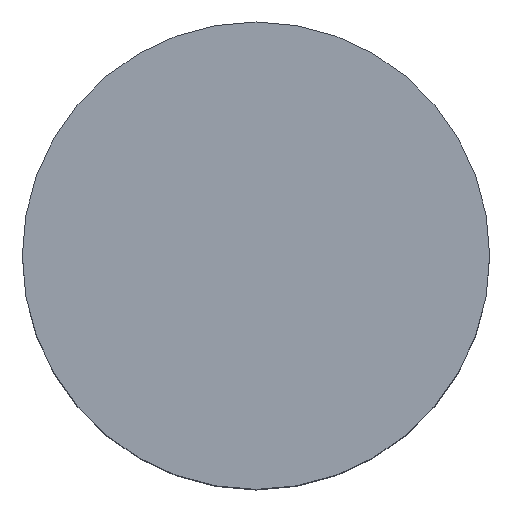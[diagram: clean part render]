
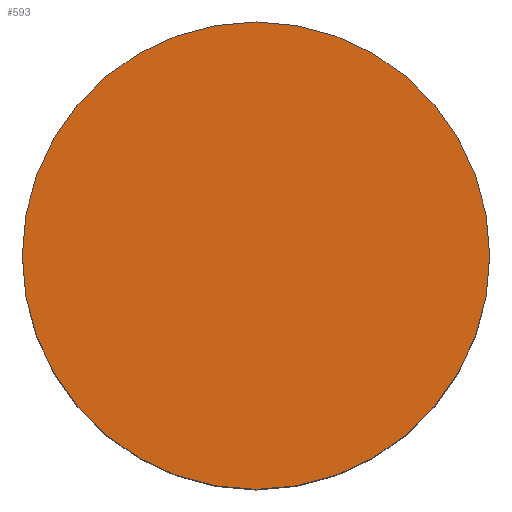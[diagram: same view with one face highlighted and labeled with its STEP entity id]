
A CAD part, top view. The second image highlights one B-rep face of the part: STEP entity #593.
In plain terms, the highlighted planar face has unit normal (0, 0, 1).
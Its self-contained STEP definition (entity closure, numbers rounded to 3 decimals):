
#56 = CIRCLE ( 'NONE', #855, 25. ) ;
#262 = CARTESIAN_POINT ( 'NONE',  ( 0., 0., 10. ) ) ;
#322 = DIRECTION ( 'NONE',  ( -1., 0., 0. ) ) ;
#403 = AXIS2_PLACEMENT_3D ( 'NONE', #262, #1028, #1036 ) ;
#420 = CARTESIAN_POINT ( 'NONE',  ( 0., 0., 10. ) ) ;
#427 = DIRECTION ( 'NONE',  ( 0., 0., 1. ) ) ;
#433 = DIRECTION ( 'NONE',  ( 1., 0., 0. ) ) ;
#512 = EDGE_CURVE ( 'NONE', #520, #820, #56, .T. ) ;
#520 = VERTEX_POINT ( 'NONE', #899 ) ;
#540 = EDGE_LOOP ( 'NONE', ( #743, #746 ) ) ;
#593 = ADVANCED_FACE ( 'NONE', ( #810 ), #608, .F. ) ;
#608 = PLANE ( 'NONE',  #661 ) ;
#640 = CIRCLE ( 'NONE', #403, 25. ) ;
#661 = AXIS2_PLACEMENT_3D ( 'NONE', #834, #802, #322 ) ;
#701 = CARTESIAN_POINT ( 'NONE',  ( 25., 0., 10. ) ) ;
#743 = ORIENTED_EDGE ( 'NONE', *, *, #744, .T. ) ;
#744 = EDGE_CURVE ( 'NONE', #820, #520, #640, .T. ) ;
#746 = ORIENTED_EDGE ( 'NONE', *, *, #512, .T. ) ;
#802 = DIRECTION ( 'NONE',  ( 0., 0., -1. ) ) ;
#810 = FACE_OUTER_BOUND ( 'NONE', #540, .T. ) ;
#820 = VERTEX_POINT ( 'NONE', #701 ) ;
#834 = CARTESIAN_POINT ( 'NONE',  ( -25., 0., 10. ) ) ;
#855 = AXIS2_PLACEMENT_3D ( 'NONE', #420, #427, #433 ) ;
#899 = CARTESIAN_POINT ( 'NONE',  ( -25., 0., 10. ) ) ;
#1028 = DIRECTION ( 'NONE',  ( 0., 0., 1. ) ) ;
#1036 = DIRECTION ( 'NONE',  ( 1., 0., 0. ) ) ;
